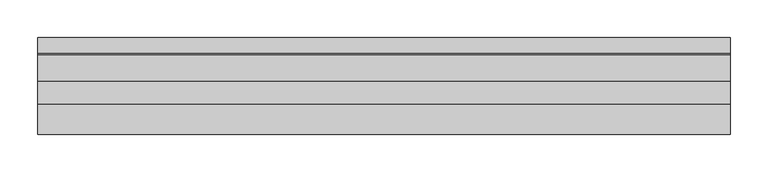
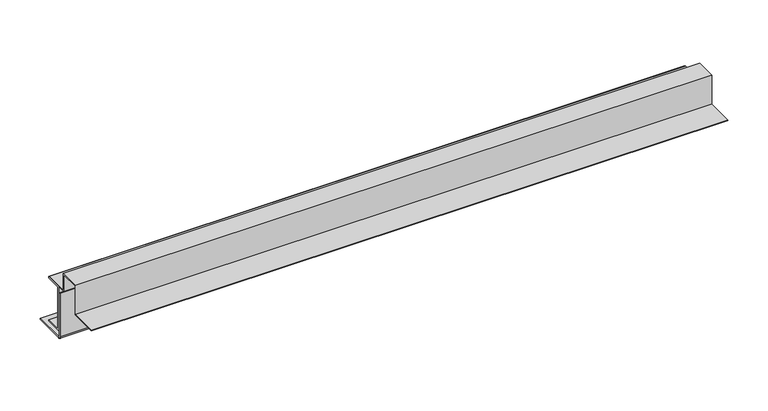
"""IFC4 building model written with IfcOpenShell, lengths in millimetres: proxy geometry, АК8_1 верх Обрамление витражного проема : АК8_1 верх Обрамление витражного проема."""

from ifc_helpers import new_model, si_unit, point, frame, frame_2d, origin, place, context, project, spatial, polyline, circle_curve, trimmed, segment, composite_curve, outline, extrude, source, transform, mapped, element, save


def generic_models_076ac74d(model_context):
    return source(origin(), model_context, "Body", "SweptSolid", [
        extrude(outline(composite_curve([segment(polyline([(29.8704378, -103.0), (29.8704378, -105.0), (-16.1295622, -105.0)]), True, "CONTINUOUS"), segment(trimmed(circle_curve(frame_2d((-16.1295622, -101.0)), 4.0), [point((-16.1295622, -105.0))], [point((-20.1295622, -101.0))], False, "CARTESIAN"), True, "CONTINUOUS"), segment(polyline([(-20.1295622, -101.0), (-20.1295622, -35.0), (-18.1295622, -35.0), (-18.1295622, -101.0)]), True, "CONTINUOUS"), segment(trimmed(circle_curve(frame_2d((-16.1295622, -101.0)), 2.0), [point((-18.1295622, -101.0))], [point((-16.1295622, -103.0))], True, "CARTESIAN"), True, "CONTINUOUS"), segment(polyline([(-16.1295622, -103.0), (29.8704378, -103.0)]), True, "CONTINUOUS")], self_intersect=False)), frame((0.0, 0.0, 0.0), z_axis=(1.0, 0.0, 0.0), x_axis=(0.0, 1.0, 0.0)), (0.0, 0.0, 1.0), 915.0),
        extrude(outline(polyline([(-16.1295622, -26.5), (8.8704378, -26.5), (8.8704378, -28.5), (-14.1295622, -28.5), (-14.1295622, -92.5), (8.8704378, -92.5), (8.8704378, -94.5), (-16.1295622, -94.5), (-16.1295622, -26.5)])), frame((0.0, 0.0, 0.0), z_axis=(1.0, 0.0, 0.0), x_axis=(0.0, 1.0, 0.0)), (0.0, 0.0, 1.0), 915.0),
        extrude(outline(polyline([(6.9998693, -25.4999617), (6.9998693, -26.4999617), (-29.0001307, -26.4999617), (-29.0001307, -0.9999617), (-57.0001307, -0.9999617), (-57.0001307, -44.9999617), (-98.0001307, -44.9999617), (-98.0001307, -43.9999617), (-58.0001307, -43.9999617), (-58.0001307, 3.83e-05), (-28.0001307, 3.83e-05), (-28.0001307, -25.4999617), (6.9998693, -25.4999617)])), frame((0.0, 0.0, 0.0), z_axis=(1.0, 0.0, 0.0), x_axis=(0.0, 1.0, 0.0)), (0.0, 0.0, 1.0), 915.0),
    ])


if __name__ == "__main__":
    model = new_model("IFC4")
    model_context = context("Model", 3, world=origin())
    ifc_project = project(units=[si_unit("LENGTHUNIT", "METRE", prefix="MILLI")], contexts=[model_context])
    site = spatial("IfcSite", under=ifc_project)
    building = spatial("IfcBuilding", under=site)
    placement = place(None, origin())
    generic_models_shape = generic_models_076ac74d(model_context)
    element("IfcBuildingElementProxy", 1, Name="АК8_1 верх Обрамление витражного проема : АК8_1 верх Обрамление витражного проема", ObjectType="АК8_1 верх Обрамление витражного проема : АК8_1 верх Обрамление витражного проема", at=placement, inside=building, context=model_context, shape_type="MappedRepresentation", body=[
        mapped(generic_models_shape, transform((0.0, 0.0, 0.0), x_axis=(1.0, 0.0, 0.0), y_axis=(0.0, 1.0, 0.0), z_axis=(0.0, 0.0, 1.0))),
    ])
    save(model, "model.ifc")
